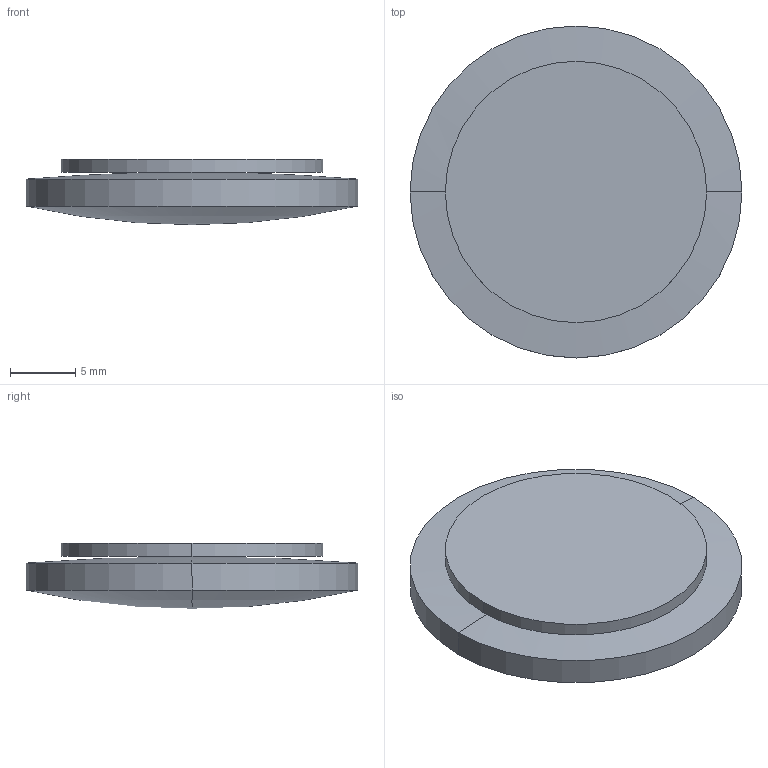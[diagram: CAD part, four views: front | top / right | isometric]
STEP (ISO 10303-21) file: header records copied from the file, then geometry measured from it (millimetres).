
FILE_DESCRIPTION(('STEP AP214'),'1');
FILE_NAME('LLZ-25-63.STEP','2020-03-09T17:42:30',(' '),(' '),'Spatial InterOp 3D',' ',' ');
FILE_SCHEMA(('AUTOMOTIVE_DESIGN { 1 0 10303 214 1 1 1 1 }'));
Length unit declared in the file: millimetre
Products named in the file (1): 1
Bounding box: 25.4 x 25.4 x 5 mm (x, y, z)
Volume: 1851.1 mm3; surface area: 1876.2 mm2
Topology: 2 solids, 2 shells, 10 faces, 20 edges, 10 vertices
Faces by surface type: sphere 4, cylinder 4, plane 2
Entity records: 255 total; most frequent: DIRECTION 52, CARTESIAN_POINT 38, ORIENTED_EDGE 32, AXIS2_PLACEMENT_3D 24, EDGE_CURVE 16, CIRCLE 12, ADVANCED_FACE 10, FACE_OUTER_BOUND 10
